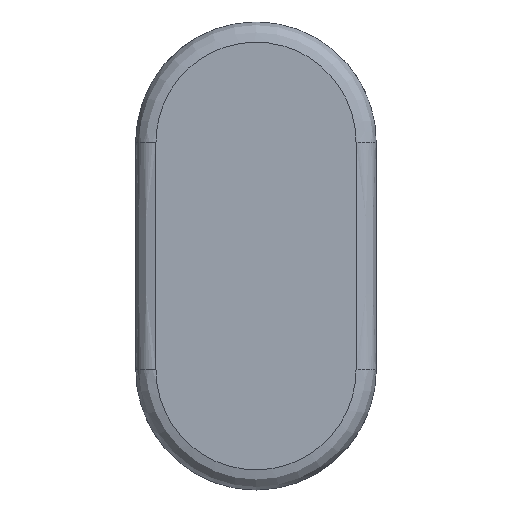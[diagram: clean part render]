
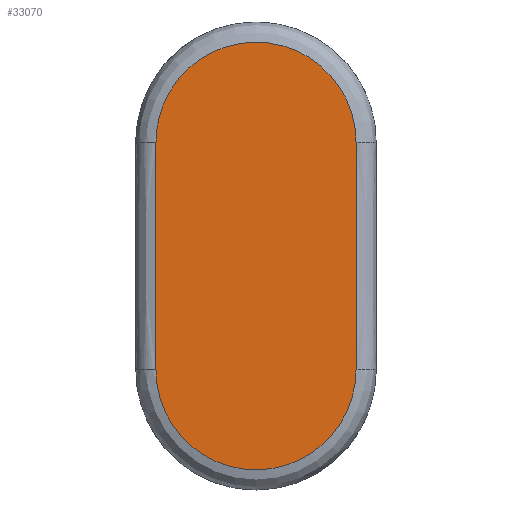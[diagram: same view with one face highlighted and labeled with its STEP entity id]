
A CAD part, front view. The second image highlights one B-rep face of the part: STEP entity #33070.
In plain terms, the highlighted planar face has unit normal (0, -1, 0).
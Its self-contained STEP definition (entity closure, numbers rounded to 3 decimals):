
#32539=CARTESIAN_POINT('',(-25.8,-10.7,
-73.1));
#32540=CARTESIAN_POINT('',(-25.8,-10.7,
-73.98));
#32541=CARTESIAN_POINT('',(-25.713,-10.7,
-75.674));
#32542=CARTESIAN_POINT('',(-25.203,-10.7,
-79.067));
#32543=CARTESIAN_POINT('',(-23.946,-10.7,
-83.141));
#32544=CARTESIAN_POINT('',(-21.533,-10.7,
-87.608));
#32545=CARTESIAN_POINT('',(-18.3,-10.7,
-91.52));
#32546=CARTESIAN_POINT('',(-14.371,-10.7,
-94.725));
#32547=CARTESIAN_POINT('',(-9.895,-10.7,
-97.104));
#32548=CARTESIAN_POINT('',(-5.045,-10.7,
-98.57));
#32549=CARTESIAN_POINT('',(-1.667,-10.7,
-98.901));
#32550=CARTESIAN_POINT('',(1.713,-10.7,
-98.899));
#32551=CARTESIAN_POINT('',(5.098,-10.7,
-98.56));
#32552=CARTESIAN_POINT('',(9.957,-10.7,
-97.08));
#32553=CARTESIAN_POINT('',(14.436,-10.7,
-94.683));
#32554=CARTESIAN_POINT('',(18.361,-10.7,
-91.46));
#32555=CARTESIAN_POINT('',(21.583,-10.7,
-87.533));
#32556=CARTESIAN_POINT('',(23.981,-10.7,
-83.056));
#32557=CARTESIAN_POINT('',(25.215,-10.7,
-79.005));
#32558=CARTESIAN_POINT('',(25.714,-10.7,
-75.653));
#32559=CARTESIAN_POINT('',(25.8,-10.7,
-73.978));
#32560=CARTESIAN_POINT('',(25.8,-10.7,
-73.1));
#32562=DIRECTION('',(0.,0.,-1.));
#32563=VECTOR('',#32562,58.7);
#32564=CARTESIAN_POINT('',(-25.8,-10.7,
-14.4));
#32565=LINE('',#32564,#32563);
#32566=CARTESIAN_POINT('',(25.8,-10.7,
-14.4));
#32567=CARTESIAN_POINT('',(25.8,-10.7,
-13.522));
#32568=CARTESIAN_POINT('',(25.714,-10.7,
-11.846));
#32569=CARTESIAN_POINT('',(25.215,-10.7,
-8.494));
#32570=CARTESIAN_POINT('',(23.981,-10.7,
-4.444));
#32571=CARTESIAN_POINT('',(21.584,-10.7,
0.034));
#32572=CARTESIAN_POINT('',(18.361,-10.7,
3.96));
#32573=CARTESIAN_POINT('',(14.436,-10.7,
7.183));
#32574=CARTESIAN_POINT('',(9.957,-10.7,
9.58));
#32575=CARTESIAN_POINT('',(5.098,-10.7,
11.061));
#32576=CARTESIAN_POINT('',(1.713,-10.7,
11.399));
#32577=CARTESIAN_POINT('',(-1.667,-10.7,
11.402));
#32578=CARTESIAN_POINT('',(-5.044,-10.7,
11.071));
#32579=CARTESIAN_POINT('',(-9.896,-10.7,
9.605));
#32580=CARTESIAN_POINT('',(-14.37,-10.7,
7.226));
#32581=CARTESIAN_POINT('',(-18.3,-10.7,
4.021));
#32582=CARTESIAN_POINT('',(-21.533,-10.7,
0.108));
#32583=CARTESIAN_POINT('',(-23.946,-10.7,
-4.358));
#32584=CARTESIAN_POINT('',(-25.203,-10.7,
-8.433));
#32585=CARTESIAN_POINT('',(-25.713,-10.7,
-11.825));
#32586=CARTESIAN_POINT('',(-25.8,-10.7,
-13.519));
#32587=CARTESIAN_POINT('',(-25.8,-10.7,
-14.4));
#32589=DIRECTION('',(0.,0.,1.));
#32590=VECTOR('',#32589,58.7);
#32591=CARTESIAN_POINT('',(25.8,-10.7,
-73.1));
#32592=LINE('',#32591,#32590);
#32618=VERTEX_POINT('',#32539);
#32619=VERTEX_POINT('',#32560);
#32620=CARTESIAN_POINT('',(25.8,-10.7,
-14.4));
#32621=VERTEX_POINT('',#32620);
#32622=VERTEX_POINT('',#32587);
#33057=CARTESIAN_POINT('',(-2.149,-10.7,
-43.75));
#33058=DIRECTION('',(0.,1.,0.));
#33059=DIRECTION('',(1.,0.,0.));
#33060=AXIS2_PLACEMENT_3D('',#33057,#33058,#33059);
#33061=PLANE('',#33060);
#33063=ORIENTED_EDGE('',*,*,#33062,.F.);
#33064=ORIENTED_EDGE('',*,*,#33049,.F.);
#33065=ORIENTED_EDGE('',*,*,#33035,.F.);
#33067=ORIENTED_EDGE('',*,*,#33066,.F.);
#33068=EDGE_LOOP('',(#33063,#33064,#33065,#33067));
#33069=FACE_OUTER_BOUND('',#33068,.F.);
#33070=ADVANCED_FACE('',(#33069),#33061,.F.);
#32561=B_SPLINE_CURVE_WITH_KNOTS('',3,(#32539,#32540,#32541,#32542,#32543,
#32544,#32545,#32546,#32547,#32548,#32549,#32550,#32551,#32552,#32553,#32554,
#32555,#32556,#32557,#32558,#32559,#32560),.UNSPECIFIED.,.F.,.F.,(4,1,1,1,1,1,1,
1,1,1,1,1,1,1,1,1,1,1,1,4),(0.,0.031,0.063,0.125,0.188,
0.25,0.313,0.375,0.437,0.5,0.5,0.563,
0.625,0.688,0.75,0.813,0.875,0.938,0.969,
1.),.UNSPECIFIED.);
#32588=B_SPLINE_CURVE_WITH_KNOTS('',3,(#32566,#32567,#32568,#32569,#32570,
#32571,#32572,#32573,#32574,#32575,#32576,#32577,#32578,#32579,#32580,#32581,
#32582,#32583,#32584,#32585,#32586,#32587),.UNSPECIFIED.,.F.,.F.,(4,1,1,1,1,1,1,
1,1,1,1,1,1,1,1,1,1,1,1,4),(0.,0.031,0.062,0.125,0.187,
0.25,0.312,0.375,0.437,0.5,0.5,0.563,
0.625,0.687,0.75,0.812,0.875,0.937,0.969,
1.),.UNSPECIFIED.);
#33035=EDGE_CURVE('',#32621,#32622,#32588,.T.);
#33049=EDGE_CURVE('',#32622,#32618,#32565,.T.);
#33062=EDGE_CURVE('',#32618,#32619,#32561,.T.);
#33066=EDGE_CURVE('',#32619,#32621,#32592,.T.);
